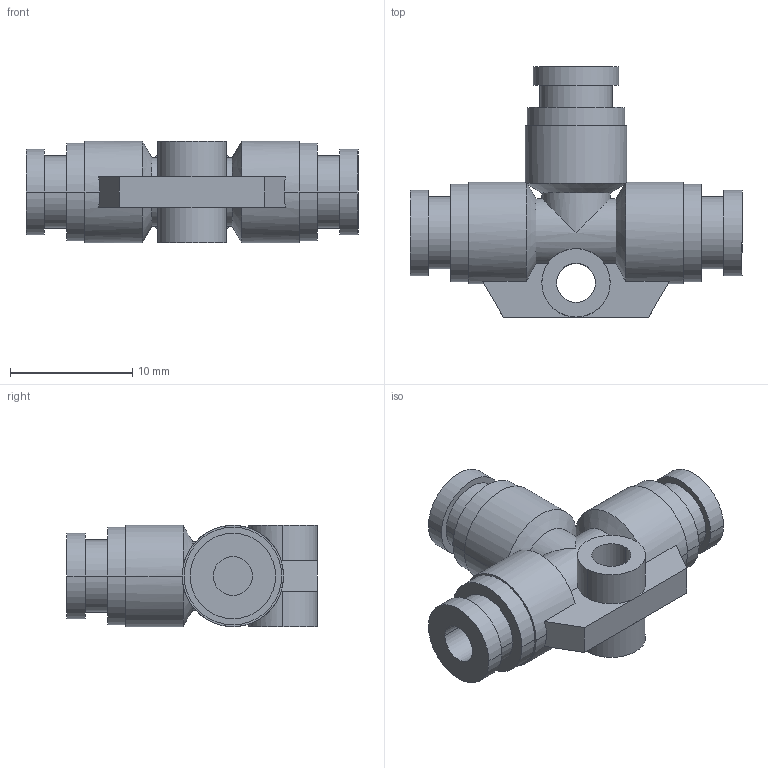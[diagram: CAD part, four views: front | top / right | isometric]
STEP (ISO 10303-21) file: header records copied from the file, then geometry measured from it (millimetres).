
FILE_DESCRIPTION( ( '' ), '1' );
FILE_NAME( 'G:/SMC狟婥/KQ2T23-00A.stp', '2023-03-07T03:29:23', ( '' ), ( '' ), ' ', ' ', ' ' );
FILE_SCHEMA( ( 'CONFIG_CONTROL_DESIGN' ) );
Length unit declared in the file: millimetre
Products named in the file (1): 1
Bounding box: 27.2 x 20.5 x 8.3 mm (x, y, z)
Volume: 1489.4 mm3; surface area: 1743.9 mm2
Topology: 1 solids, 1 shells, 70 faces, 166 edges, 106 vertices
Faces by surface type: cylinder 40, plane 24, cone 6
Entity records: 2194 total; most frequent: CARTESIAN_POINT 453, DIRECTION 392, ORIENTED_EDGE 332, EDGE_CURVE 166, AXIS2_PLACEMENT_3D 165, VERTEX_POINT 106, EDGE_LOOP 84, CIRCLE 82
